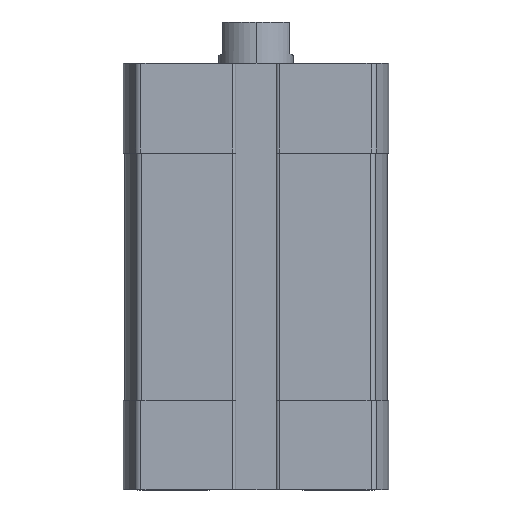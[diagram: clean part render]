
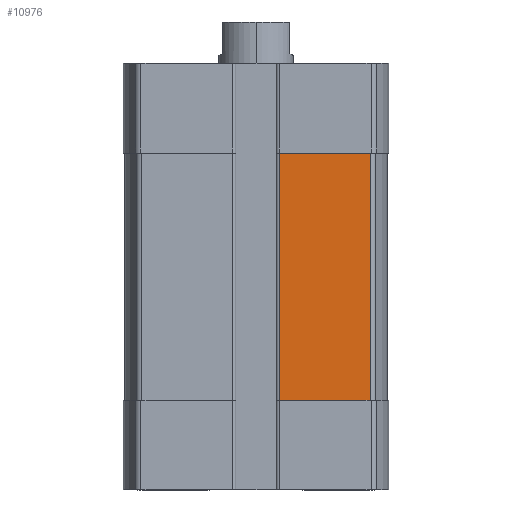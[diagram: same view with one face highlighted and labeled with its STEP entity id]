
A CAD part, left-side view. The second image highlights one B-rep face of the part: STEP entity #10976.
In plain terms, the highlighted planar face has unit normal (-1, 0, 0).
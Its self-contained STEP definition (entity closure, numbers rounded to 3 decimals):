
#179 = LINE ( 'NONE', #4768, #2251 ) ;
#477 = CARTESIAN_POINT ( 'NONE',  ( -17.5, -15.253, -45. ) ) ;
#894 = DIRECTION ( 'NONE',  ( 0., 0., 1. ) ) ;
#1234 = ORIENTED_EDGE ( 'NONE', *, *, #3663, .T. ) ;
#1580 = EDGE_CURVE ( 'NONE', #10200, #5125, #6554, .T. ) ;
#1835 = VERTEX_POINT ( 'NONE', #1888 ) ;
#1888 = CARTESIAN_POINT ( 'NONE',  ( -17.5, -3.1, -45. ) ) ;
#2077 = ORIENTED_EDGE ( 'NONE', *, *, #1580, .T. ) ;
#2251 = VECTOR ( 'NONE', #3755, 1000. ) ;
#2344 = VECTOR ( 'NONE', #11565, 1000. ) ;
#2440 = CARTESIAN_POINT ( 'NONE',  ( -17.5, 0., -12. ) ) ;
#2614 = DIRECTION ( 'NONE',  ( 0., 0., 1. ) ) ;
#2617 = VECTOR ( 'NONE', #8843, 1000. ) ;
#3598 = CARTESIAN_POINT ( 'NONE',  ( -17.5, -15.253, -12. ) ) ;
#3663 = EDGE_CURVE ( 'NONE', #5125, #3736, #7737, .T. ) ;
#3736 = VERTEX_POINT ( 'NONE', #12644 ) ;
#3755 = DIRECTION ( 'NONE',  ( 0., -1., 0. ) ) ;
#3875 = VECTOR ( 'NONE', #2614, 1000. ) ;
#3942 = CARTESIAN_POINT ( 'NONE',  ( -17.5, -3.1, -45. ) ) ;
#4768 = CARTESIAN_POINT ( 'NONE',  ( -17.5, -3.1, -45. ) ) ;
#5125 = VERTEX_POINT ( 'NONE', #3598 ) ;
#6524 = FACE_OUTER_BOUND ( 'NONE', #9231, .T. ) ;
#6554 = LINE ( 'NONE', #477, #3875 ) ;
#6980 = DIRECTION ( 'NONE',  ( -1., 0., 0. ) ) ;
#7528 = EDGE_CURVE ( 'NONE', #1835, #3736, #8020, .T. ) ;
#7737 = LINE ( 'NONE', #2440, #2344 ) ;
#7838 = CARTESIAN_POINT ( 'NONE',  ( -17.5, -3.1, -45. ) ) ;
#8020 = LINE ( 'NONE', #7838, #2617 ) ;
#8843 = DIRECTION ( 'NONE',  ( 0., 0., 1. ) ) ;
#8996 = CARTESIAN_POINT ( 'NONE',  ( -17.5, -15.253, -45. ) ) ;
#9231 = EDGE_LOOP ( 'NONE', ( #10860, #2077, #1234, #12225 ) ) ;
#9592 = EDGE_CURVE ( 'NONE', #1835, #10200, #179, .T. ) ;
#10200 = VERTEX_POINT ( 'NONE', #8996 ) ;
#10400 = AXIS2_PLACEMENT_3D ( 'NONE', #3942, #6980, #894 ) ;
#10860 = ORIENTED_EDGE ( 'NONE', *, *, #9592, .T. ) ;
#10976 = ADVANCED_FACE ( 'NONE', ( #6524 ), #11042, .T. ) ;
#11042 = PLANE ( 'NONE',  #10400 ) ;
#11565 = DIRECTION ( 'NONE',  ( 0., 1., 0. ) ) ;
#12225 = ORIENTED_EDGE ( 'NONE', *, *, #7528, .F. ) ;
#12644 = CARTESIAN_POINT ( 'NONE',  ( -17.5, -3.1, -12. ) ) ;
